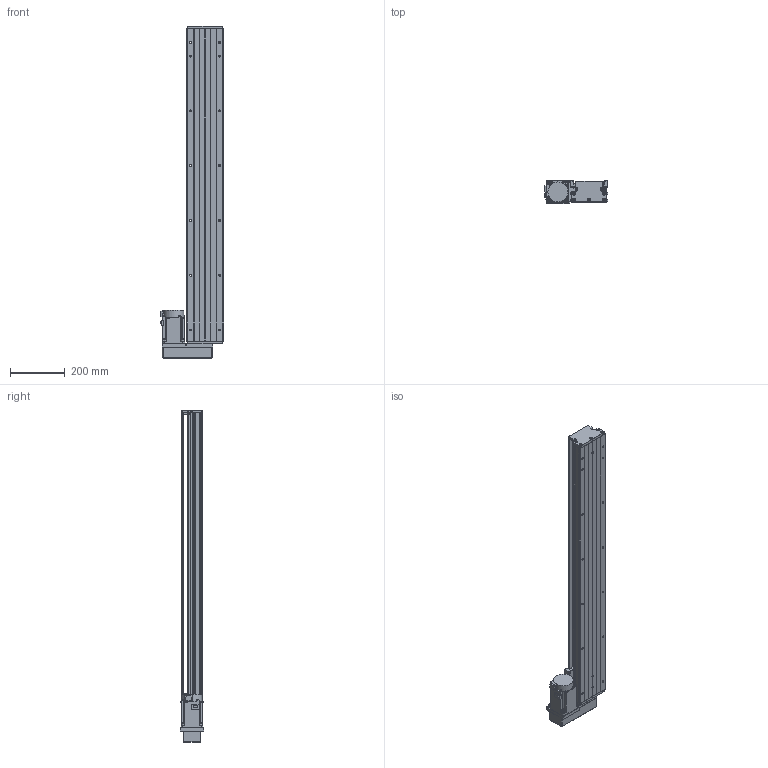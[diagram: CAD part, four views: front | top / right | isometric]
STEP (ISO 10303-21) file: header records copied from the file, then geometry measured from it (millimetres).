
FILE_DESCRIPTION (( 'STEP AP203' ), '1' );
FILE_NAME ('KTH130-1000-BL-M75-C4.step', '2023-06-30T04:24:08', ( '微软用户' ), ( '微软中国' ), 'SwSTEP 2.0', 'SolidWorks 2020', '' );
FILE_SCHEMA (( 'CONFIG_CONTROL_DESIGN' ));
Length unit declared in the file: millimetre
Products named in the file (18): CTHA86-035; KTH130-005; GBT 70.1-M3℅5; KTH130-1000-BL-M75-C4; GB1155-6X6; GBT77-2000 M3×3; GBT70.1 M5℅16; す晦芛蹟隊 M3℅5; GBT 70.2-M3¡Á5_M3¡Á6; GBT 70.3-M3℅8; GTH14-001_1000; CTHA60-017; hg-kn73j_-s100; KTH130-002_KTH130-002; EE_SX911P_R; CTHA86-015-3_CTHA86-015-4; KTH130-004; CTHA60-016
Assembly tree (49 placements, depth 2):
  KTH130-1000-BL-M75-C4
    GTH14-001_1000
    KTH130-002_KTH130-002
    KTH130-004
    KTH130-005
    GB1155-6X6  x2
    GBT70.1 M5℅16  x10
    GBT 70.2-M3¡Á5_M3¡Á6  x4
    CTHA60-017  x3
    EE_SX911P_R  x3
    CTHA60-016  x2
    GBT 70.1-M3℅5  x6
    GBT77-2000 M3×3  x6
    す晦芛蹟隊 M3℅5  x2
    GBT 70.3-M3℅8  x4
    hg-kn73j_-s100
    CTHA86-015-3_CTHA86-015-4
    CTHA86-035
Bounding box: 230.3 x 87 x 1212 mm (x, y, z)
Volume: 7509759.8 mm3; surface area: 1078066.6 mm2
Topology: 52 solids, 52 shells, 2212 faces, 5364 edges, 3359 vertices
Faces by surface type: plane 1212, cylinder 646, cone 238, torus 100, sphere 16
Entity records: 40561 total; most frequent: CARTESIAN_POINT 6822, DIRECTION 6697, ORIENTED_EDGE 6232, EDGE_CURVE 3116, AXIS2_PLACEMENT_3D 2352, LINE 1993, VERTEX_POINT 1993, VECTOR 1993
